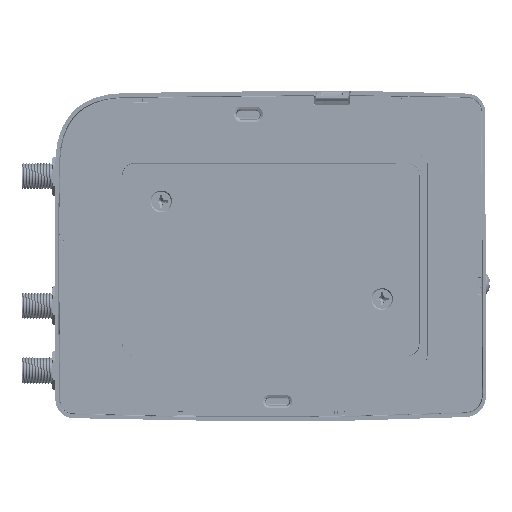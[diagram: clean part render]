
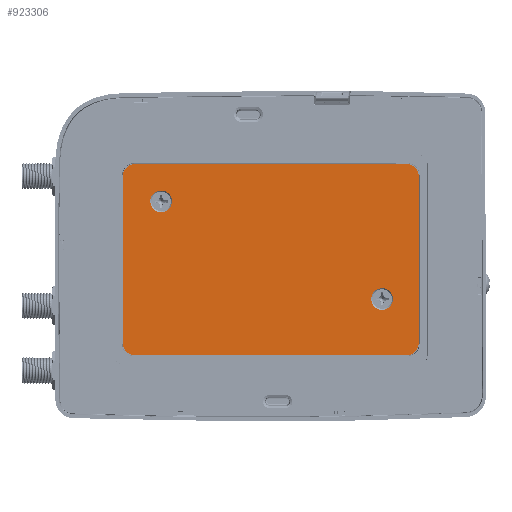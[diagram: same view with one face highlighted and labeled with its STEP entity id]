
A CAD part, front view. The second image highlights one B-rep face of the part: STEP entity #923306.
In plain terms, the highlighted planar face has unit normal (0, -1, 0) as drawn and (0, 1, 0) by its records, which use the part's own axes.
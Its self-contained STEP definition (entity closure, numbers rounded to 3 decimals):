
#922936=CARTESIAN_POINT('',(-26.25,1.5,-13.95));
#922937=DIRECTION('',(0.,-1.,0.));
#922938=DIRECTION('',(0.,0.,-1.));
#922939=AXIS2_PLACEMENT_3D('',#922936,#922937,#922938);
#922944=CARTESIAN_POINT('',(-26.25,1.5,-13.95));
#922945=DIRECTION('',(0.,-1.,0.));
#922946=DIRECTION('',(0.,0.,1.));
#922947=AXIS2_PLACEMENT_3D('',#922944,#922945,#922946);
#922952=CARTESIAN_POINT('',(26.653,1.5,9.43));
#922953=DIRECTION('',(0.,-1.,0.));
#922954=DIRECTION('',(0.,0.,1.));
#922955=AXIS2_PLACEMENT_3D('',#922952,#922953,#922954);
#922960=CARTESIAN_POINT('',(26.653,1.5,9.43));
#922961=DIRECTION('',(0.,-1.,0.));
#922962=DIRECTION('',(0.,0.,-1.));
#922963=AXIS2_PLACEMENT_3D('',#922960,#922961,#922962);
#922968=CARTESIAN_POINT('',(-32.5,1.5,-20.));
#922969=DIRECTION('',(0.,1.,0.));
#922970=DIRECTION('',(0.,0.,-1.));
#922971=AXIS2_PLACEMENT_3D('',#922968,#922969,#922970);
#922976=DIRECTION('',(-1.,0.,0.));
#922977=VECTOR('',#922976,65.);
#922978=CARTESIAN_POINT('',(32.5,1.5,-22.9));
#922979=LINE('',#922978,#922977);
#922983=CARTESIAN_POINT('',(32.5,1.5,-20.));
#922984=DIRECTION('',(0.,1.,0.));
#922985=DIRECTION('',(1.,0.,0.));
#922986=AXIS2_PLACEMENT_3D('',#922983,#922984,#922985);
#922991=DIRECTION('',(0.,0.,-1.));
#922992=VECTOR('',#922991,40.);
#922993=CARTESIAN_POINT('',(35.4,1.5,20.));
#922994=LINE('',#922993,#922992);
#922998=CARTESIAN_POINT('',(32.5,1.5,20.));
#922999=DIRECTION('',(0.,1.,0.));
#923000=DIRECTION('',(0.,0.,1.));
#923001=AXIS2_PLACEMENT_3D('',#922998,#922999,#923000);
#923006=DIRECTION('',(1.,0.,0.));
#923007=VECTOR('',#923006,65.);
#923008=CARTESIAN_POINT('',(-32.5,1.5,22.9));
#923009=LINE('',#923008,#923007);
#923013=CARTESIAN_POINT('',(-32.5,1.5,20.));
#923014=DIRECTION('',(0.,1.,0.));
#923015=DIRECTION('',(-1.,0.,0.));
#923016=AXIS2_PLACEMENT_3D('',#923013,#923014,#923015);
#923021=DIRECTION('',(0.,0.,1.));
#923022=VECTOR('',#923021,40.);
#923023=CARTESIAN_POINT('',(-35.4,1.5,-20.));
#923024=LINE('',#923023,#923022);
#923154=CARTESIAN_POINT('',(-32.5,1.5,-22.9));
#923155=VERTEX_POINT('',#923154);
#923156=CARTESIAN_POINT('',(-35.4,1.5,-20.));
#923157=VERTEX_POINT('',#923156);
#923162=CARTESIAN_POINT('',(-35.4,1.5,20.));
#923163=VERTEX_POINT('',#923162);
#923164=CARTESIAN_POINT('',(-32.5,1.5,22.9));
#923165=VERTEX_POINT('',#923164);
#923170=CARTESIAN_POINT('',(32.5,1.5,22.9));
#923171=VERTEX_POINT('',#923170);
#923172=CARTESIAN_POINT('',(35.4,1.5,20.));
#923173=VERTEX_POINT('',#923172);
#923178=CARTESIAN_POINT('',(35.4,1.5,-20.));
#923179=VERTEX_POINT('',#923178);
#923180=CARTESIAN_POINT('',(32.5,1.5,-22.9));
#923181=VERTEX_POINT('',#923180);
#923186=CARTESIAN_POINT('',(-26.25,1.5,-16.55));
#923187=CARTESIAN_POINT('',(-26.25,1.5,-11.35));
#923188=VERTEX_POINT('',#923186);
#923189=VERTEX_POINT('',#923187);
#923198=CARTESIAN_POINT('',(26.653,1.5,12.03));
#923199=CARTESIAN_POINT('',(26.653,1.5,6.83));
#923200=VERTEX_POINT('',#923198);
#923201=VERTEX_POINT('',#923199);
#923272=CARTESIAN_POINT('',(0.,1.5,0.));
#923273=DIRECTION('',(0.,1.,0.));
#923274=DIRECTION('',(1.,0.,0.));
#923275=AXIS2_PLACEMENT_3D('',#923272,#923273,#923274);
#923276=PLANE('',#923275);
#923278=ORIENTED_EDGE('',*,*,#923277,.F.);
#923280=ORIENTED_EDGE('',*,*,#923279,.F.);
#923282=ORIENTED_EDGE('',*,*,#923281,.F.);
#923284=ORIENTED_EDGE('',*,*,#923283,.F.);
#923286=ORIENTED_EDGE('',*,*,#923285,.F.);
#923288=ORIENTED_EDGE('',*,*,#923287,.F.);
#923290=ORIENTED_EDGE('',*,*,#923289,.F.);
#923292=ORIENTED_EDGE('',*,*,#923291,.F.);
#923293=EDGE_LOOP('',(#923278,#923280,#923282,#923284,#923286,#923288,#923290,
#923292));
#923294=FACE_OUTER_BOUND('',#923293,.F.);
#923296=ORIENTED_EDGE('',*,*,#923295,.F.);
#923298=ORIENTED_EDGE('',*,*,#923297,.F.);
#923299=EDGE_LOOP('',(#923296,#923298));
#923300=FACE_BOUND('',#923299,.F.);
#923301=ORIENTED_EDGE('',*,*,#923262,.F.);
#923303=ORIENTED_EDGE('',*,*,#923302,.F.);
#923304=EDGE_LOOP('',(#923301,#923303));
#923305=FACE_BOUND('',#923304,.F.);
#922940=CIRCLE('',#922939,2.6);
#922948=CIRCLE('',#922947,2.6);
#922956=CIRCLE('',#922955,2.6);
#922964=CIRCLE('',#922963,2.6);
#922972=CIRCLE('',#922971,2.9);
#922987=CIRCLE('',#922986,2.9);
#923002=CIRCLE('',#923001,2.9);
#923017=CIRCLE('',#923016,2.9);
#923262=EDGE_CURVE('',#923188,#923189,#922940,.T.);
#923277=EDGE_CURVE('',#923155,#923157,#922972,.T.);
#923279=EDGE_CURVE('',#923181,#923155,#922979,.T.);
#923281=EDGE_CURVE('',#923179,#923181,#922987,.T.);
#923283=EDGE_CURVE('',#923173,#923179,#922994,.T.);
#923285=EDGE_CURVE('',#923171,#923173,#923002,.T.);
#923287=EDGE_CURVE('',#923165,#923171,#923009,.T.);
#923289=EDGE_CURVE('',#923163,#923165,#923017,.T.);
#923291=EDGE_CURVE('',#923157,#923163,#923024,.T.);
#923295=EDGE_CURVE('',#923200,#923201,#922956,.T.);
#923297=EDGE_CURVE('',#923201,#923200,#922964,.T.);
#923302=EDGE_CURVE('',#923189,#923188,#922948,.T.);
#923306=ADVANCED_FACE('',(#923294,#923300,#923305),#923276,.T.);
